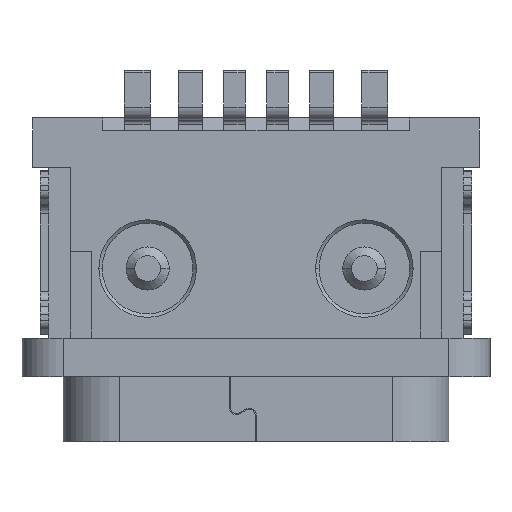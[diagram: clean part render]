
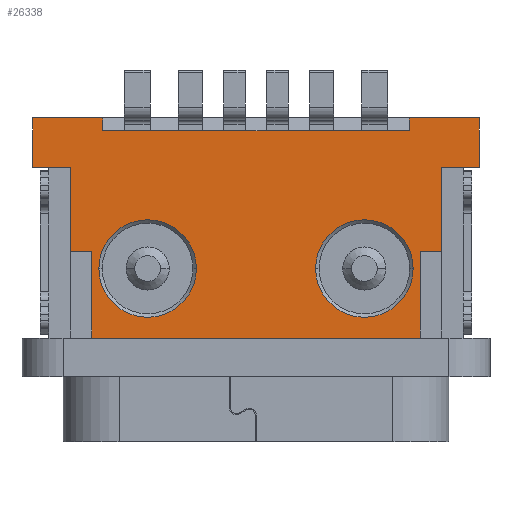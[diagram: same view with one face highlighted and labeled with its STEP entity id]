
A CAD part, front view. The second image highlights one B-rep face of the part: STEP entity #26338.
In plain terms, the highlighted planar face has unit normal (0, -1, 0).
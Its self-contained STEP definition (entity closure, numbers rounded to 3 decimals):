
#24953=DIRECTION('',(1.,0.,0.));
#24954=VECTOR('',#24953,1.62);
#24955=CARTESIAN_POINT('',(24.83,-2.16,7.5));
#24956=LINE('',#24955,#24954);
#24957=DIRECTION('',(0.,0.,1.));
#24958=VECTOR('',#24957,0.3);
#24959=CARTESIAN_POINT('',(33.55,-2.16,7.2));
#24960=LINE('',#24959,#24958);
#24961=DIRECTION('',(1.,0.,0.));
#24962=VECTOR('',#24961,1.62);
#24963=CARTESIAN_POINT('',(33.55,-2.16,7.5));
#24964=LINE('',#24963,#24962);
#24965=CARTESIAN_POINT('',(32.51,-2.16,4.01));
#24966=DIRECTION('',(0.,-1.,0.));
#24967=DIRECTION('',(-1.,0.,0.));
#24968=AXIS2_PLACEMENT_3D('',#24965,#24966,#24967);
#24970=CARTESIAN_POINT('',(32.51,-2.16,4.01));
#24971=DIRECTION('',(0.,-1.,0.));
#24972=DIRECTION('',(1.,0.,0.));
#24973=AXIS2_PLACEMENT_3D('',#24970,#24971,#24972);
#24975=CARTESIAN_POINT('',(27.49,-2.16,4.01));
#24976=DIRECTION('',(0.,-1.,0.));
#24977=DIRECTION('',(-1.,0.,0.));
#24978=AXIS2_PLACEMENT_3D('',#24975,#24976,#24977);
#24980=CARTESIAN_POINT('',(27.49,-2.16,4.01));
#24981=DIRECTION('',(0.,-1.,0.));
#24982=DIRECTION('',(1.,0.,0.));
#24983=AXIS2_PLACEMENT_3D('',#24980,#24981,#24982);
#24985=DIRECTION('',(0.,0.,-1.));
#24986=VECTOR('',#24985,1.95);
#24987=CARTESIAN_POINT('',(34.3,-2.16,6.35));
#24988=LINE('',#24987,#24986);
#25113=DIRECTION('',(0.,0.,1.));
#25114=VECTOR('',#25113,1.95);
#25115=CARTESIAN_POINT('',(25.7,-2.16,4.4));
#25116=LINE('',#25115,#25114);
#25121=DIRECTION('',(-1.,0.,0.));
#25122=VECTOR('',#25121,0.5);
#25123=CARTESIAN_POINT('',(26.2,-2.16,4.4));
#25124=LINE('',#25123,#25122);
#25129=DIRECTION('',(0.,0.,1.));
#25130=VECTOR('',#25129,2.);
#25131=CARTESIAN_POINT('',(26.2,-2.16,2.4));
#25132=LINE('',#25131,#25130);
#25173=DIRECTION('',(-1.,0.,0.));
#25174=VECTOR('',#25173,7.6);
#25175=CARTESIAN_POINT('',(33.8,-2.16,2.4));
#25176=LINE('',#25175,#25174);
#25553=DIRECTION('',(1.,0.,0.));
#25554=VECTOR('',#25553,7.1);
#25555=CARTESIAN_POINT('',(26.45,-2.16,7.2));
#25556=LINE('',#25555,#25554);
#25581=DIRECTION('',(0.,0.,-1.));
#25582=VECTOR('',#25581,0.3);
#25583=CARTESIAN_POINT('',(26.45,-2.16,7.5));
#25584=LINE('',#25583,#25582);
#25589=DIRECTION('',(0.,0.,1.));
#25590=VECTOR('',#25589,1.15);
#25591=CARTESIAN_POINT('',(24.83,-2.16,6.35));
#25592=LINE('',#25591,#25590);
#25609=DIRECTION('',(-1.,0.,0.));
#25610=VECTOR('',#25609,0.87);
#25611=CARTESIAN_POINT('',(35.17,-2.16,6.35));
#25612=LINE('',#25611,#25610);
#25623=DIRECTION('',(-1.,0.,0.));
#25624=VECTOR('',#25623,0.87);
#25625=CARTESIAN_POINT('',(25.7,-2.16,6.35));
#25626=LINE('',#25625,#25624);
#25657=DIRECTION('',(0.,0.,-1.));
#25658=VECTOR('',#25657,1.15);
#25659=CARTESIAN_POINT('',(35.17,-2.16,7.5));
#25660=LINE('',#25659,#25658);
#25761=DIRECTION('',(0.,0.,-1.));
#25762=VECTOR('',#25761,2.);
#25763=CARTESIAN_POINT('',(33.8,-2.16,4.4));
#25764=LINE('',#25763,#25762);
#25769=DIRECTION('',(-1.,0.,0.));
#25770=VECTOR('',#25769,0.5);
#25771=CARTESIAN_POINT('',(34.3,-2.16,4.4));
#25772=LINE('',#25771,#25770);
#25943=CARTESIAN_POINT('',(33.55,-2.16,7.5));
#25944=VERTEX_POINT('',#25943);
#25945=CARTESIAN_POINT('',(35.17,-2.16,7.5));
#25946=VERTEX_POINT('',#25945);
#25955=CARTESIAN_POINT('',(24.83,-2.16,7.5));
#25956=VERTEX_POINT('',#25955);
#25957=CARTESIAN_POINT('',(26.45,-2.16,7.5));
#25958=VERTEX_POINT('',#25957);
#25963=CARTESIAN_POINT('',(33.55,-2.16,7.2));
#25964=VERTEX_POINT('',#25963);
#25967=CARTESIAN_POINT('',(34.3,-2.16,6.35));
#25968=CARTESIAN_POINT('',(34.3,-2.16,4.4));
#25969=VERTEX_POINT('',#25967);
#25970=VERTEX_POINT('',#25968);
#25971=CARTESIAN_POINT('',(35.17,-2.16,6.35));
#25972=VERTEX_POINT('',#25971);
#25973=CARTESIAN_POINT('',(26.45,-2.16,7.2));
#25974=VERTEX_POINT('',#25973);
#25975=CARTESIAN_POINT('',(24.83,-2.16,6.35));
#25976=VERTEX_POINT('',#25975);
#25977=CARTESIAN_POINT('',(25.7,-2.16,6.35));
#25978=VERTEX_POINT('',#25977);
#25979=CARTESIAN_POINT('',(25.7,-2.16,4.4));
#25980=VERTEX_POINT('',#25979);
#25981=CARTESIAN_POINT('',(26.2,-2.16,4.4));
#25982=VERTEX_POINT('',#25981);
#25983=CARTESIAN_POINT('',(26.2,-2.16,2.4));
#25984=VERTEX_POINT('',#25983);
#25985=CARTESIAN_POINT('',(33.8,-2.16,2.4));
#25986=VERTEX_POINT('',#25985);
#25987=CARTESIAN_POINT('',(33.8,-2.16,4.4));
#25988=VERTEX_POINT('',#25987);
#25989=CARTESIAN_POINT('',(31.38,-2.16,4.01));
#25990=CARTESIAN_POINT('',(33.64,-2.16,4.01));
#25991=VERTEX_POINT('',#25989);
#25992=VERTEX_POINT('',#25990);
#25993=CARTESIAN_POINT('',(26.36,-2.16,4.01));
#25994=CARTESIAN_POINT('',(28.62,-2.16,4.01));
#25995=VERTEX_POINT('',#25993);
#25996=VERTEX_POINT('',#25994);
#26289=CARTESIAN_POINT('',(30.,-2.16,4.95));
#26290=DIRECTION('',(0.,1.,0.));
#26291=DIRECTION('',(1.,0.,0.));
#26292=AXIS2_PLACEMENT_3D('',#26289,#26290,#26291);
#26293=PLANE('',#26292);
#26295=ORIENTED_EDGE('',*,*,#26294,.T.);
#26297=ORIENTED_EDGE('',*,*,#26296,.T.);
#26299=ORIENTED_EDGE('',*,*,#26298,.T.);
#26301=ORIENTED_EDGE('',*,*,#26300,.T.);
#26303=ORIENTED_EDGE('',*,*,#26302,.T.);
#26305=ORIENTED_EDGE('',*,*,#26304,.T.);
#26307=ORIENTED_EDGE('',*,*,#26306,.T.);
#26309=ORIENTED_EDGE('',*,*,#26308,.T.);
#26311=ORIENTED_EDGE('',*,*,#26310,.T.);
#26313=ORIENTED_EDGE('',*,*,#26312,.T.);
#26315=ORIENTED_EDGE('',*,*,#26314,.T.);
#26317=ORIENTED_EDGE('',*,*,#26316,.T.);
#26319=ORIENTED_EDGE('',*,*,#26318,.T.);
#26321=ORIENTED_EDGE('',*,*,#26320,.T.);
#26323=ORIENTED_EDGE('',*,*,#26322,.T.);
#26325=ORIENTED_EDGE('',*,*,#26324,.T.);
#26326=EDGE_LOOP('',(#26295,#26297,#26299,#26301,#26303,#26305,#26307,#26309,
#26311,#26313,#26315,#26317,#26319,#26321,#26323,#26325));
#26327=FACE_OUTER_BOUND('',#26326,.F.);
#26329=ORIENTED_EDGE('',*,*,#26328,.T.);
#26331=ORIENTED_EDGE('',*,*,#26330,.T.);
#26332=EDGE_LOOP('',(#26329,#26331));
#26333=FACE_BOUND('',#26332,.F.);
#26334=ORIENTED_EDGE('',*,*,#26269,.T.);
#26335=ORIENTED_EDGE('',*,*,#26284,.T.);
#26336=EDGE_LOOP('',(#26334,#26335));
#26337=FACE_BOUND('',#26336,.F.);
#26338=ADVANCED_FACE('',(#26327,#26333,#26337),#26293,.F.);
#24969=CIRCLE('',#24968,1.13);
#24974=CIRCLE('',#24973,1.13);
#24979=CIRCLE('',#24978,1.13);
#24984=CIRCLE('',#24983,1.13);
#26269=EDGE_CURVE('',#25995,#25996,#24979,.T.);
#26284=EDGE_CURVE('',#25996,#25995,#24984,.T.);
#26294=EDGE_CURVE('',#25969,#25970,#24988,.T.);
#26296=EDGE_CURVE('',#25970,#25988,#25772,.T.);
#26298=EDGE_CURVE('',#25988,#25986,#25764,.T.);
#26300=EDGE_CURVE('',#25986,#25984,#25176,.T.);
#26302=EDGE_CURVE('',#25984,#25982,#25132,.T.);
#26304=EDGE_CURVE('',#25982,#25980,#25124,.T.);
#26306=EDGE_CURVE('',#25980,#25978,#25116,.T.);
#26308=EDGE_CURVE('',#25978,#25976,#25626,.T.);
#26310=EDGE_CURVE('',#25976,#25956,#25592,.T.);
#26312=EDGE_CURVE('',#25956,#25958,#24956,.T.);
#26314=EDGE_CURVE('',#25958,#25974,#25584,.T.);
#26316=EDGE_CURVE('',#25974,#25964,#25556,.T.);
#26318=EDGE_CURVE('',#25964,#25944,#24960,.T.);
#26320=EDGE_CURVE('',#25944,#25946,#24964,.T.);
#26322=EDGE_CURVE('',#25946,#25972,#25660,.T.);
#26324=EDGE_CURVE('',#25972,#25969,#25612,.T.);
#26328=EDGE_CURVE('',#25991,#25992,#24969,.T.);
#26330=EDGE_CURVE('',#25992,#25991,#24974,.T.);
